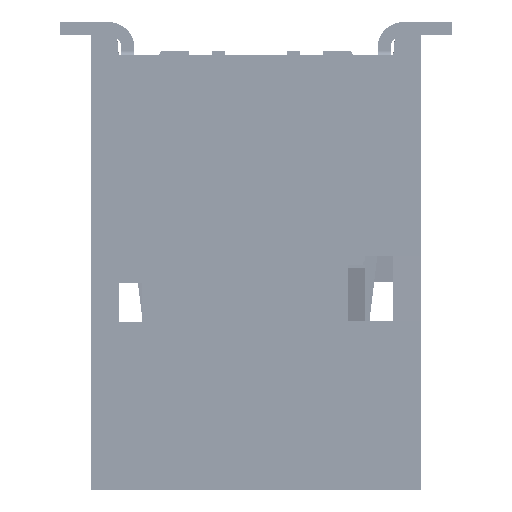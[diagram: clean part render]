
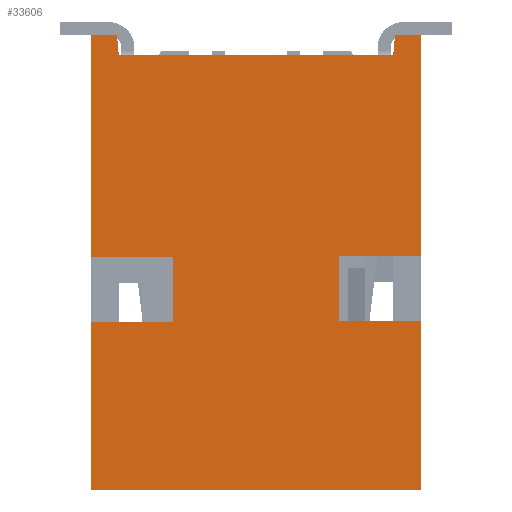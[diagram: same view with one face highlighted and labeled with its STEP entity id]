
A CAD part, left-side view. The second image highlights one B-rep face of the part: STEP entity #33606.
In plain terms, the highlighted planar face has unit normal (-1, 0, 0).
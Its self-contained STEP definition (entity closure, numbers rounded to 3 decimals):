
#6=DIRECTION('',(0.,-1.,0.));
#7=VECTOR('',#6,0.4);
#8=CARTESIAN_POINT('',(2.,-2.14,0.));
#9=LINE('1029',#8,#7);
#30=DIRECTION('',(0.,-1.,0.));
#31=VECTOR('',#30,0.4);
#32=CARTESIAN_POINT('',(2.,2.54,0.));
#33=LINE('1028',#32,#31);
#2084=DIRECTION('',(0.,-1.,0.));
#2085=VECTOR('',#2084,5.08);
#2086=CARTESIAN_POINT('',(2.,2.54,7.));
#2087=LINE('33',#2086,#2085);
#2100=DIRECTION('',(0.,0.087,0.996));
#2101=VECTOR('',#2100,0.301);
#2102=CARTESIAN_POINT('',(2.,-2.14,0.));
#2103=LINE('996',#2102,#2101);
#2104=DIRECTION('',(0.,1.,0.));
#2105=VECTOR('',#2104,4.228);
#2106=CARTESIAN_POINT('',(2.,-2.114,0.3));
#2107=LINE('997',#2106,#2105);
#2108=DIRECTION('',(0.,0.087,-0.996));
#2109=VECTOR('',#2108,0.301);
#2110=CARTESIAN_POINT('',(2.,2.114,0.3));
#2111=LINE('998',#2110,#2109);
#2112=DIRECTION('',(0.,0.,1.));
#2113=VECTOR('',#2112,3.4);
#2114=CARTESIAN_POINT('',(2.,2.54,0.));
#2115=LINE('907',#2114,#2113);
#2116=DIRECTION('',(0.,-1.,0.));
#2117=VECTOR('',#2116,1.27);
#2118=CARTESIAN_POINT('',(2.,2.54,3.4));
#2119=LINE('38741',#2118,#2117);
#2120=DIRECTION('',(0.,0.,1.));
#2121=VECTOR('',#2120,1.);
#2122=CARTESIAN_POINT('',(2.,1.27,3.4));
#2123=LINE('893',#2122,#2121);
#2124=DIRECTION('',(0.,-1.,0.));
#2125=VECTOR('',#2124,1.27);
#2126=CARTESIAN_POINT('',(2.,2.54,4.4));
#2127=LINE('895',#2126,#2125);
#2128=DIRECTION('',(0.,0.,1.));
#2129=VECTOR('',#2128,2.6);
#2130=CARTESIAN_POINT('',(2.,2.54,4.4));
#2131=LINE('908',#2130,#2129);
#2132=DIRECTION('',(0.,1.,0.));
#2133=VECTOR('',#2132,1.27);
#2134=CARTESIAN_POINT('',(2.,-2.54,4.41));
#2135=LINE('951',#2134,#2133);
#2136=DIRECTION('',(0.,0.,1.));
#2137=VECTOR('',#2136,1.);
#2138=CARTESIAN_POINT('',(2.,-1.27,3.41));
#2139=LINE('949',#2138,#2137);
#2140=DIRECTION('',(0.,1.,0.));
#2141=VECTOR('',#2140,1.27);
#2142=CARTESIAN_POINT('',(2.,-2.54,3.41));
#2143=LINE('38734',#2142,#2141);
#3679=DIRECTION('',(0.,0.,1.));
#3680=VECTOR('',#3679,3.41);
#3681=CARTESIAN_POINT('',(2.,-2.54,0.));
#3682=LINE('961',#3681,#3680);
#3703=DIRECTION('',(0.,0.,1.));
#3704=VECTOR('',#3703,2.59);
#3705=CARTESIAN_POINT('',(2.,-2.54,4.41));
#3706=LINE('962',#3705,#3704);
#23152=CARTESIAN_POINT('',(2.,2.54,7.));
#23153=CARTESIAN_POINT('',(2.,-2.54,7.));
#23154=VERTEX_POINT('',#23152);
#23155=VERTEX_POINT('',#23153);
#23216=CARTESIAN_POINT('',(2.,1.27,3.4));
#23217=CARTESIAN_POINT('',(2.,1.27,4.4));
#23218=VERTEX_POINT('',#23216);
#23219=VERTEX_POINT('',#23217);
#23220=CARTESIAN_POINT('',(2.,2.54,4.4));
#23221=VERTEX_POINT('',#23220);
#23226=CARTESIAN_POINT('',(2.,2.54,3.4));
#23227=VERTEX_POINT('',#23226);
#23228=CARTESIAN_POINT('',(2.,2.54,0.));
#23229=VERTEX_POINT('',#23228);
#23241=CARTESIAN_POINT('',(2.,-1.27,3.41));
#23242=CARTESIAN_POINT('',(2.,-1.27,4.41));
#23243=VERTEX_POINT('',#23241);
#23244=VERTEX_POINT('',#23242);
#23245=CARTESIAN_POINT('',(2.,-2.54,4.41));
#23246=VERTEX_POINT('',#23245);
#23253=CARTESIAN_POINT('',(2.,-2.54,0.));
#23254=CARTESIAN_POINT('',(2.,-2.54,3.41));
#23255=VERTEX_POINT('',#23253);
#23256=VERTEX_POINT('',#23254);
#23264=CARTESIAN_POINT('',(2.,-2.14,0.));
#23266=VERTEX_POINT('',#23264);
#23272=CARTESIAN_POINT('',(2.,2.14,0.));
#23274=VERTEX_POINT('',#23272);
#23280=CARTESIAN_POINT('',(2.,-2.114,0.3));
#23281=VERTEX_POINT('',#23280);
#23282=CARTESIAN_POINT('',(2.,2.114,0.3));
#23283=VERTEX_POINT('',#23282);
#33572=CARTESIAN_POINT('',(2.,2.54,0.));
#33573=DIRECTION('',(-1.,0.,0.));
#33574=DIRECTION('',(0.,-1.,0.));
#33575=AXIS2_PLACEMENT_3D('',#33572,#33573,#33574);
#33576=PLANE('37',#33575);
#33577=ORIENTED_EDGE('996',*,*,#30826,.T.);
#33578=ORIENTED_EDGE('997',*,*,#32116,.T.);
#33580=ORIENTED_EDGE('998',*,*,#33579,.T.);
#33581=ORIENTED_EDGE('1028',*,*,#30220,.F.);
#33583=ORIENTED_EDGE('907',*,*,#33582,.T.);
#33585=ORIENTED_EDGE('38741',*,*,#33584,.T.);
#33587=ORIENTED_EDGE('893',*,*,#33586,.T.);
#33589=ORIENTED_EDGE('895',*,*,#33588,.F.);
#33591=ORIENTED_EDGE('908',*,*,#33590,.T.);
#33592=ORIENTED_EDGE('33',*,*,#33182,.T.);
#33594=ORIENTED_EDGE('962',*,*,#33593,.F.);
#33596=ORIENTED_EDGE('951',*,*,#33595,.T.);
#33598=ORIENTED_EDGE('949',*,*,#33597,.F.);
#33600=ORIENTED_EDGE('38734',*,*,#33599,.F.);
#33602=ORIENTED_EDGE('961',*,*,#33601,.F.);
#33603=ORIENTED_EDGE('1029',*,*,#30184,.F.);
#33604=EDGE_LOOP('37',(#33577,#33578,#33580,#33581,#33583,#33585,#33587,#33589,
#33591,#33592,#33594,#33596,#33598,#33600,#33602,#33603));
#33605=FACE_OUTER_BOUND('37',#33604,.F.);
#33606=ADVANCED_FACE('37',(#33605),#33576,.T.);
#30184=EDGE_CURVE('1029',#23266,#23255,#9,.T.);
#30220=EDGE_CURVE('1028',#23229,#23274,#33,.T.);
#30826=EDGE_CURVE('996',#23266,#23281,#2103,.T.);
#32116=EDGE_CURVE('997',#23281,#23283,#2107,.T.);
#33182=EDGE_CURVE('33',#23154,#23155,#2087,.T.);
#33579=EDGE_CURVE('998',#23283,#23274,#2111,.T.);
#33582=EDGE_CURVE('907',#23229,#23227,#2115,.T.);
#33584=EDGE_CURVE('38741',#23227,#23218,#2119,.T.);
#33586=EDGE_CURVE('893',#23218,#23219,#2123,.T.);
#33588=EDGE_CURVE('895',#23221,#23219,#2127,.T.);
#33590=EDGE_CURVE('908',#23221,#23154,#2131,.T.);
#33593=EDGE_CURVE('962',#23246,#23155,#3706,.T.);
#33595=EDGE_CURVE('951',#23246,#23244,#2135,.T.);
#33597=EDGE_CURVE('949',#23243,#23244,#2139,.T.);
#33599=EDGE_CURVE('38734',#23256,#23243,#2143,.T.);
#33601=EDGE_CURVE('961',#23255,#23256,#3682,.T.);
